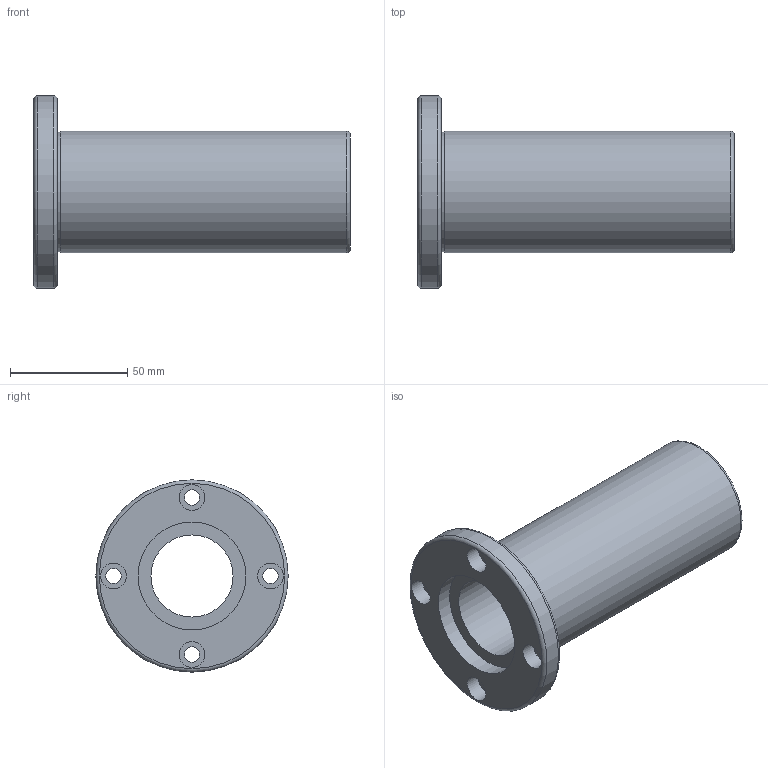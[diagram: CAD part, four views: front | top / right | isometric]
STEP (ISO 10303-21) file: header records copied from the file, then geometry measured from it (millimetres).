
FILE_DESCRIPTION( ( 'Unknown' ), '1' );
FILE_NAME( 'D:/累诀/己绕皋墨飘肺葱胶/11-04-06_档搁累己/01_府聪绢何教/LMF L/LMF 35L.stp', 'Unknown', ( 'Unknown' ), ( 'Unknown' ), 'PSStep 11.0', 'Unknown', ' ' );
FILE_SCHEMA( ( 'AUTOMOTIVE_DESIGN { 1 0 10303 214 1 1 1 1 }' ) );
Length unit declared in the file: millimetre
Products named in the file (1): 1
Bounding box: 135 x 82 x 82 mm (x, y, z)
Volume: 175546.6 mm3; surface area: 47577.1 mm2
Topology: 1 solids, 1 shells, 27 faces, 52 edges, 35 vertices
Faces by surface type: cylinder 14, plane 10, torus 3
Full cylindrical faces by diameter (mm): 6.6 x4, 11 x4, 35 x1, 46 x2, 51 x1, 52 x1, 82 x1
Entity records: 836 total; most frequent: DIRECTION 118, CARTESIAN_POINT 90, EDGE_LOOP 62, ORIENTED_EDGE 62, AXIS2_PLACEMENT_3D 59, FACE_OUTER_BOUND 44, EDGE_CURVE 31, VERTEX_POINT 31
